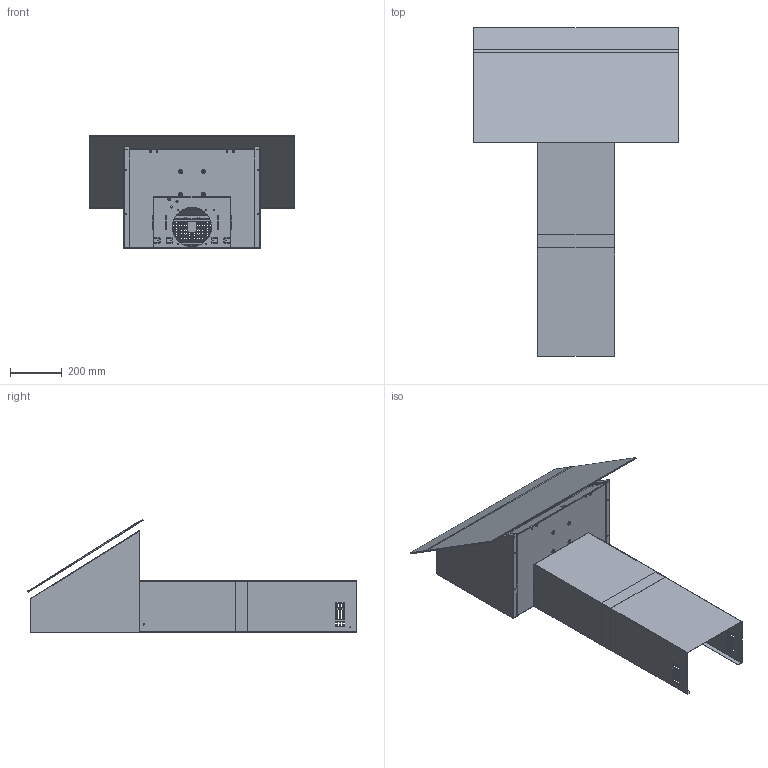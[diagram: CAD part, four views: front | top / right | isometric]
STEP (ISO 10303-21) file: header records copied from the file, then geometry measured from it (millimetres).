
FILE_DESCRIPTION(('CATIA V5 STEP Exchange'),'2;1');
FILE_NAME('K:\DISEGNI\SMEG\CAPPE\KV28N-3971464\BIM\KV28N.stp','2021-09-14T12:39:57+00:00',('none'),('none'),'CATIA Version 5-6 Release 2014 SP7','CATIA V5 STEP AP203','none');
FILE_SCHEMA(('CONFIG_CONTROL_DESIGN'));
Products named in the file (1): KV28N-3971464.SLDASM
Bounding box: 795 x 1273.41 x 438.6 mm (x, y, z)
Surface area: 5037765.6 mm2 (no closed solid volume)
Topology: 0 solids, 3666 shells, 3703 faces, 19846 edges, 19758 vertices
Faces by surface type: cylinder 1947, plane 1450, bspline 206, revolution 100
Entity records: 224093 total; most frequent: CARTESIAN_POINT 109896, ORIENTED_EDGE 19834, EDGE_CURVE 19796, VERTEX_POINT 19758, B_SPLINE_CURVE_WITH_KNOTS 18824, DIRECTION 7446, EDGE_LOOP 4651, ADVANCED_FACE 3703
